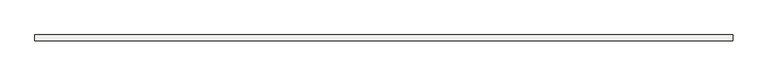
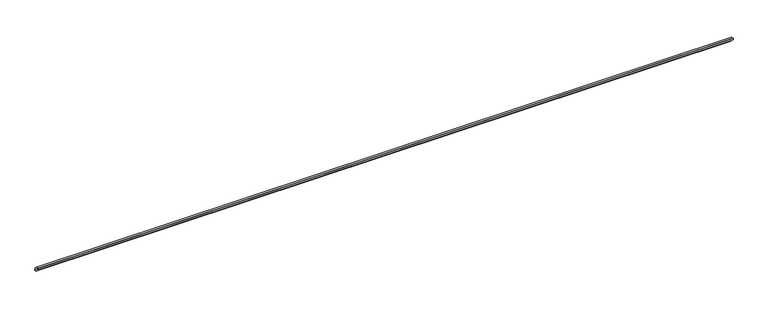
"""IFC4 building model written with IfcOpenShell, lengths in millimetres: slab geometry, ROSA GRES_183 : Pieza 183_Tao_Beige_Liso."""

from ifc_helpers import new_model, si_unit, point, frame, frame_2d, origin, origin_2d, place, context, project, spatial, polyline, circle_curve, trimmed, segment, composite_curve, outline, extrude, source, transform, mapped, element, save


def slab_566f5eac(model_context):
    return source(origin(), model_context, "Body", "SweptSolid", [
        extrude(outline(composite_curve([segment(trimmed(circle_curve(origin_2d(), 40.0), [point((0.0, 40.0))], [point((40.0, 0.0))], False, "CARTESIAN"), True, "CONTINUOUS"), segment(polyline([(40.0, 0.0), (30.0265886, 0.0)]), True, "CONTINUOUS"), segment(trimmed(circle_curve(frame_2d((0.0044453, 0.0044453)), 30.0221435), [point((30.0265886, 0.0))], [point((0.0, 30.0265886))], True, "CARTESIAN"), True, "CONTINUOUS"), segment(polyline([(0.0, 30.0265886), (0.0, 40.0)]), True, "CONTINUOUS")], self_intersect=False)), frame((0.0, 0.0, 0.0), z_axis=(1.0, 0.0, 0.0), x_axis=(0.0, 1.0, 0.0)), (0.0, 0.0, 1.0), 4873.0),
    ])


if __name__ == "__main__":
    model = new_model("IFC4")
    model_context = context("Model", 3, world=origin())
    ifc_project = project(units=[si_unit("LENGTHUNIT", "METRE", prefix="MILLI")], contexts=[model_context])
    site = spatial("IfcSite", under=ifc_project)
    building = spatial("IfcBuilding", under=site)
    placement = place(None, origin())
    slab_shape = slab_566f5eac(model_context)
    element("IfcSlab", 1, ObjectType="ROSA GRES_183 : Pieza 183_Tao_Beige_Liso", at=placement, inside=building, context=model_context, shape_type="MappedRepresentation", body=[
        mapped(slab_shape, transform((0.0, 0.0, 0.0), x_axis=(1.0, 0.0, 0.0), y_axis=(0.0, 1.0, 0.0), z_axis=(0.0, 0.0, 1.0))),
    ])
    save(model, "model.ifc")
